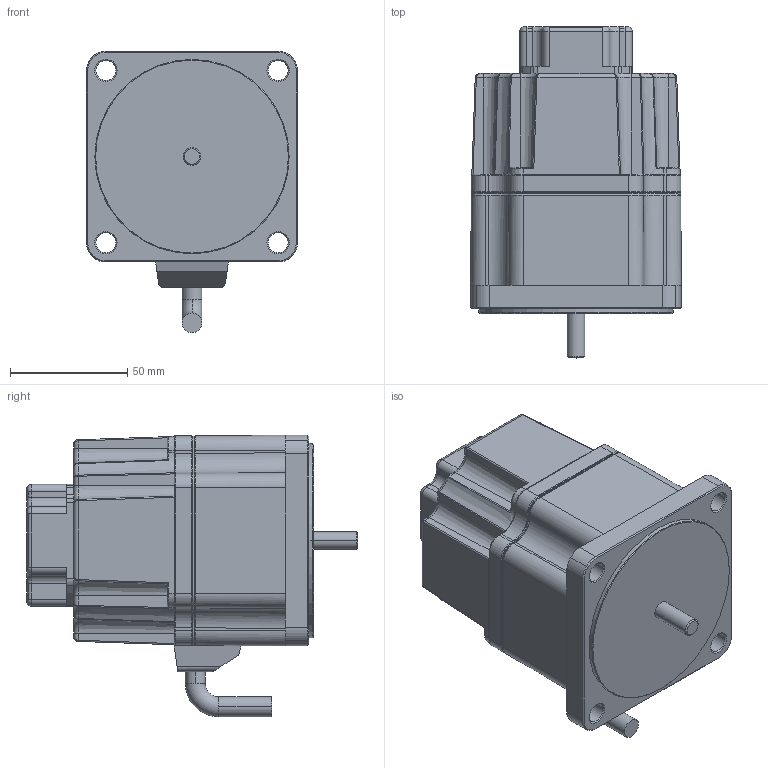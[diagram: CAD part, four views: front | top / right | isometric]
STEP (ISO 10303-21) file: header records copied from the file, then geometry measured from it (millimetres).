
FILE_DESCRIPTION (( 'STEP AP214' ), '1' );
FILE_NAME ('X Series 100w_brake_encoder_H.STEP', '2023-08-16T06:30:00', ( '' ), ( '' ), 'SwSTEP 2.0', 'SolidWorks 2022', '' );
FILE_SCHEMA (( 'AUTOMOTIVE_DESIGN' ));
Length unit declared in the file: millimetre
Products named in the file (7): K9 BRAKE COVER.stp; ENCODER COVER ASS''Y; K9BH90N﹤.stp; X Series 100w_brake_encoder_H; X Series 100w_brake_H.stp; ENCODER COVER; LEAD BUSH.stp
Assembly tree (6 placements, depth 3):
  X Series 100w_brake_encoder_H
    X Series 100w_brake_H.stp
      K9BH90N﹤.stp
      K9 BRAKE COVER.stp
    ENCODER COVER ASS''Y
      LEAD BUSH.stp
      ENCODER COVER
Bounding box: 90 x 141.8 x 120.25 mm (x, y, z)
Volume: 482774 mm3; surface area: 102864.6 mm2
Topology: 4 solids, 5 shells, 1205 faces, 3061 edges, 1851 vertices
Faces by surface type: cylinder 445, plane 379, bspline 161, torus 130, cone 74, sphere 16
Entity records: 41449 total; most frequent: CARTESIAN_POINT 12203, ORIENTED_EDGE 6038, DIRECTION 5848, EDGE_CURVE 3019, AXIS2_PLACEMENT_3D 2167, VERTEX_POINT 1851, LINE 1514, VECTOR 1514
